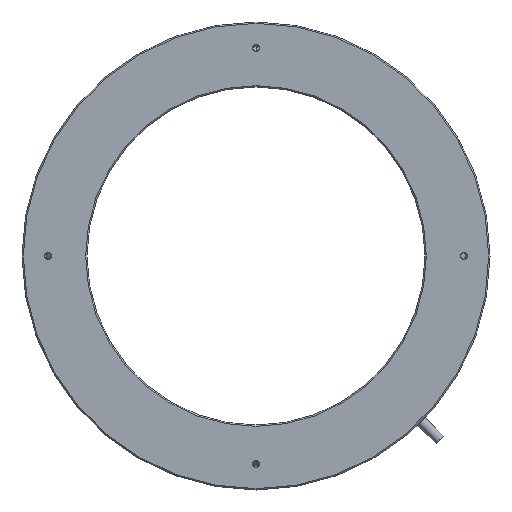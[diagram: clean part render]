
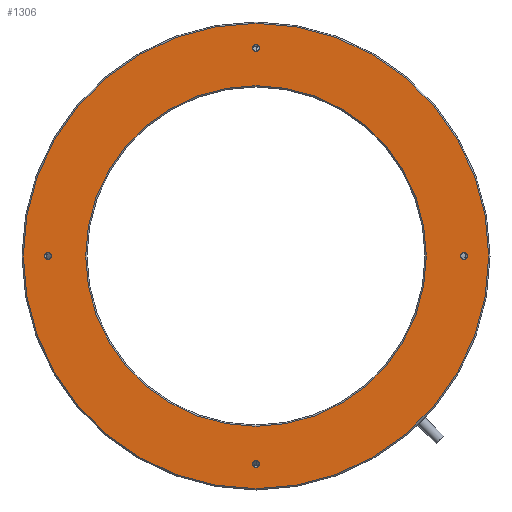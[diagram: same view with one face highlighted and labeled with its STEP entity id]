
A CAD part, front view. The second image highlights one B-rep face of the part: STEP entity #1306.
In plain terms, the highlighted planar face has unit normal (0, -1, 0).
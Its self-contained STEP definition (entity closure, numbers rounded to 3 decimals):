
#8 = EDGE_CURVE ( 'NONE', #345, #3105, #2927, .T. ) ;
#9 = CARTESIAN_POINT ( 'NONE',  ( -80., 0., 0. ) ) ;
#27 = DIRECTION ( 'NONE',  ( 0., 0., -1. ) ) ;
#33 = EDGE_CURVE ( 'NONE', #865, #2391, #2848, .T. ) ;
#89 = AXIS2_PLACEMENT_3D ( 'NONE', #1519, #2987, #2803 ) ;
#154 = ORIENTED_EDGE ( 'NONE', *, *, #1830, .F. ) ;
#173 = FACE_BOUND ( 'NONE', #308, .T. ) ;
#189 = ORIENTED_EDGE ( 'NONE', *, *, #2054, .F. ) ;
#253 = CIRCLE ( 'NONE', #2218, 1.25 ) ;
#308 = EDGE_LOOP ( 'NONE', ( #2811, #2167 ) ) ;
#345 = VERTEX_POINT ( 'NONE', #610 ) ;
#353 = FACE_BOUND ( 'NONE', #1552, .T. ) ;
#368 = DIRECTION ( 'NONE',  ( 0., -1., 0. ) ) ;
#425 = CARTESIAN_POINT ( 'NONE',  ( -80., 0., -1.25 ) ) ;
#461 = CARTESIAN_POINT ( 'NONE',  ( 0., 0., -80. ) ) ;
#537 = ORIENTED_EDGE ( 'NONE', *, *, #2195, .T. ) ;
#587 = AXIS2_PLACEMENT_3D ( 'NONE', #2143, #2542, #857 ) ;
#610 = CARTESIAN_POINT ( 'NONE',  ( -1.25, 0., -80. ) ) ;
#646 = CIRCLE ( 'NONE', #89, 89.5 ) ;
#664 = DIRECTION ( 'NONE',  ( 0., -1., 0. ) ) ;
#725 = DIRECTION ( 'NONE',  ( 0., 0., -1. ) ) ;
#735 = CIRCLE ( 'NONE', #2996, 1.25 ) ;
#737 = VERTEX_POINT ( 'NONE', #1994 ) ;
#806 = CARTESIAN_POINT ( 'NONE',  ( 80., 0., 1.25 ) ) ;
#816 = AXIS2_PLACEMENT_3D ( 'NONE', #1378, #1954, #27 ) ;
#857 = DIRECTION ( 'NONE',  ( 1., 0., 0. ) ) ;
#865 = VERTEX_POINT ( 'NONE', #2239 ) ;
#866 = AXIS2_PLACEMENT_3D ( 'NONE', #2575, #893, #2865 ) ;
#885 = DIRECTION ( 'NONE',  ( 0., 1., 0. ) ) ;
#893 = DIRECTION ( 'NONE',  ( 0., -1., 0. ) ) ;
#911 = EDGE_CURVE ( 'NONE', #2658, #2418, #2626, .T. ) ;
#915 = FACE_OUTER_BOUND ( 'NONE', #3217, .T. ) ;
#931 = DIRECTION ( 'NONE',  ( 0., 0., -1. ) ) ;
#937 = AXIS2_PLACEMENT_3D ( 'NONE', #9, #3022, #2008 ) ;
#953 = CARTESIAN_POINT ( 'NONE',  ( 80., 0., -1.25 ) ) ;
#954 = EDGE_LOOP ( 'NONE', ( #3519, #1339 ) ) ;
#966 = EDGE_CURVE ( 'NONE', #1455, #1558, #1769, .T. ) ;
#972 = CARTESIAN_POINT ( 'NONE',  ( 0., 0., 0. ) ) ;
#1089 = AXIS2_PLACEMENT_3D ( 'NONE', #2147, #2722, #1102 ) ;
#1102 = DIRECTION ( 'NONE',  ( -1., 0., 0. ) ) ;
#1268 = CARTESIAN_POINT ( 'NONE',  ( 1.25, 0., -80. ) ) ;
#1306 = ADVANCED_FACE ( 'NONE', ( #353, #1649, #173, #3090, #2310, #915 ), #3544, .F. ) ;
#1312 = CARTESIAN_POINT ( 'NONE',  ( -1.25, 0., 80. ) ) ;
#1339 = ORIENTED_EDGE ( 'NONE', *, *, #3418, .F. ) ;
#1378 = CARTESIAN_POINT ( 'NONE',  ( 80., 0., 0. ) ) ;
#1395 = DIRECTION ( 'NONE',  ( 0., -1., 0. ) ) ;
#1428 = AXIS2_PLACEMENT_3D ( 'NONE', #972, #885, #1820 ) ;
#1452 = AXIS2_PLACEMENT_3D ( 'NONE', #2322, #664, #2629 ) ;
#1455 = VERTEX_POINT ( 'NONE', #3656 ) ;
#1506 = ORIENTED_EDGE ( 'NONE', *, *, #2991, .F. ) ;
#1519 = CARTESIAN_POINT ( 'NONE',  ( 0., 0., 0. ) ) ;
#1552 = EDGE_LOOP ( 'NONE', ( #3256, #2754 ) ) ;
#1558 = VERTEX_POINT ( 'NONE', #425 ) ;
#1649 = FACE_BOUND ( 'NONE', #2112, .T. ) ;
#1751 = CIRCLE ( 'NONE', #1791, 65.5 ) ;
#1769 = CIRCLE ( 'NONE', #937, 1.25 ) ;
#1774 = DIRECTION ( 'NONE',  ( 0., -1., 0. ) ) ;
#1791 = AXIS2_PLACEMENT_3D ( 'NONE', #3369, #1395, #725 ) ;
#1820 = DIRECTION ( 'NONE',  ( 0., 0., 1. ) ) ;
#1830 = EDGE_CURVE ( 'NONE', #3105, #345, #735, .T. ) ;
#1907 = DIRECTION ( 'NONE',  ( 0., -1., 0. ) ) ;
#1954 = DIRECTION ( 'NONE',  ( 0., -1., 0. ) ) ;
#1994 = CARTESIAN_POINT ( 'NONE',  ( 0., 0., -65.5 ) ) ;
#2008 = DIRECTION ( 'NONE',  ( 0., 0., 1. ) ) ;
#2030 = CARTESIAN_POINT ( 'NONE',  ( -80., 0., 0. ) ) ;
#2054 = EDGE_CURVE ( 'NONE', #3272, #2514, #253, .T. ) ;
#2112 = EDGE_LOOP ( 'NONE', ( #3076, #154 ) ) ;
#2143 = CARTESIAN_POINT ( 'NONE',  ( 0., 0., 80. ) ) ;
#2147 = CARTESIAN_POINT ( 'NONE',  ( 0., 0., -80. ) ) ;
#2166 = CIRCLE ( 'NONE', #816, 1.25 ) ;
#2167 = ORIENTED_EDGE ( 'NONE', *, *, #2621, .F. ) ;
#2195 = EDGE_CURVE ( 'NONE', #2391, #865, #646, .T. ) ;
#2209 = CARTESIAN_POINT ( 'NONE',  ( 80., 0., 0. ) ) ;
#2218 = AXIS2_PLACEMENT_3D ( 'NONE', #2209, #2608, #931 ) ;
#2239 = CARTESIAN_POINT ( 'NONE',  ( 0., 0., -89.5 ) ) ;
#2310 = FACE_BOUND ( 'NONE', #954, .T. ) ;
#2317 = DIRECTION ( 'NONE',  ( 0., 0., 1. ) ) ;
#2322 = CARTESIAN_POINT ( 'NONE',  ( 0., 0., 0. ) ) ;
#2389 = CARTESIAN_POINT ( 'NONE',  ( 0., 0., 65.5 ) ) ;
#2391 = VERTEX_POINT ( 'NONE', #2587 ) ;
#2418 = VERTEX_POINT ( 'NONE', #1312 ) ;
#2482 = AXIS2_PLACEMENT_3D ( 'NONE', #2030, #368, #2317 ) ;
#2491 = CARTESIAN_POINT ( 'NONE',  ( 1.25, 0., 80. ) ) ;
#2514 = VERTEX_POINT ( 'NONE', #953 ) ;
#2542 = DIRECTION ( 'NONE',  ( 0., -1., 0. ) ) ;
#2575 = CARTESIAN_POINT ( 'NONE',  ( 0., 0., 0. ) ) ;
#2587 = CARTESIAN_POINT ( 'NONE',  ( 0., 0., 89.5 ) ) ;
#2608 = DIRECTION ( 'NONE',  ( 0., -1., 0. ) ) ;
#2615 = DIRECTION ( 'NONE',  ( -1., 0., 0. ) ) ;
#2621 = EDGE_CURVE ( 'NONE', #2418, #2658, #3074, .T. ) ;
#2626 = CIRCLE ( 'NONE', #587, 1.25 ) ;
#2629 = DIRECTION ( 'NONE',  ( 0., 0., -1. ) ) ;
#2647 = EDGE_LOOP ( 'NONE', ( #1506, #189 ) ) ;
#2658 = VERTEX_POINT ( 'NONE', #2491 ) ;
#2689 = VERTEX_POINT ( 'NONE', #2389 ) ;
#2722 = DIRECTION ( 'NONE',  ( 0., -1., 0. ) ) ;
#2734 = ORIENTED_EDGE ( 'NONE', *, *, #33, .T. ) ;
#2736 = DIRECTION ( 'NONE',  ( 1., 0., 0. ) ) ;
#2754 = ORIENTED_EDGE ( 'NONE', *, *, #3504, .F. ) ;
#2766 = CARTESIAN_POINT ( 'NONE',  ( 0., 0., 80. ) ) ;
#2794 = EDGE_CURVE ( 'NONE', #737, #2689, #1751, .T. ) ;
#2803 = DIRECTION ( 'NONE',  ( 0., 0., -1. ) ) ;
#2811 = ORIENTED_EDGE ( 'NONE', *, *, #911, .F. ) ;
#2848 = CIRCLE ( 'NONE', #1452, 89.5 ) ;
#2865 = DIRECTION ( 'NONE',  ( 0., 0., -1. ) ) ;
#2927 = CIRCLE ( 'NONE', #1089, 1.25 ) ;
#2987 = DIRECTION ( 'NONE',  ( 0., -1., 0. ) ) ;
#2991 = EDGE_CURVE ( 'NONE', #2514, #3272, #2166, .T. ) ;
#2996 = AXIS2_PLACEMENT_3D ( 'NONE', #461, #1774, #2615 ) ;
#3012 = CIRCLE ( 'NONE', #866, 65.5 ) ;
#3022 = DIRECTION ( 'NONE',  ( 0., -1., 0. ) ) ;
#3074 = CIRCLE ( 'NONE', #3229, 1.25 ) ;
#3076 = ORIENTED_EDGE ( 'NONE', *, *, #8, .F. ) ;
#3090 = FACE_BOUND ( 'NONE', #2647, .T. ) ;
#3105 = VERTEX_POINT ( 'NONE', #1268 ) ;
#3217 = EDGE_LOOP ( 'NONE', ( #537, #2734 ) ) ;
#3229 = AXIS2_PLACEMENT_3D ( 'NONE', #2766, #1907, #2736 ) ;
#3256 = ORIENTED_EDGE ( 'NONE', *, *, #966, .F. ) ;
#3272 = VERTEX_POINT ( 'NONE', #806 ) ;
#3369 = CARTESIAN_POINT ( 'NONE',  ( 0., 0., 0. ) ) ;
#3418 = EDGE_CURVE ( 'NONE', #2689, #737, #3012, .T. ) ;
#3504 = EDGE_CURVE ( 'NONE', #1558, #1455, #3595, .T. ) ;
#3519 = ORIENTED_EDGE ( 'NONE', *, *, #2794, .F. ) ;
#3544 = PLANE ( 'NONE',  #1428 ) ;
#3595 = CIRCLE ( 'NONE', #2482, 1.25 ) ;
#3656 = CARTESIAN_POINT ( 'NONE',  ( -80., 0., 1.25 ) ) ;
